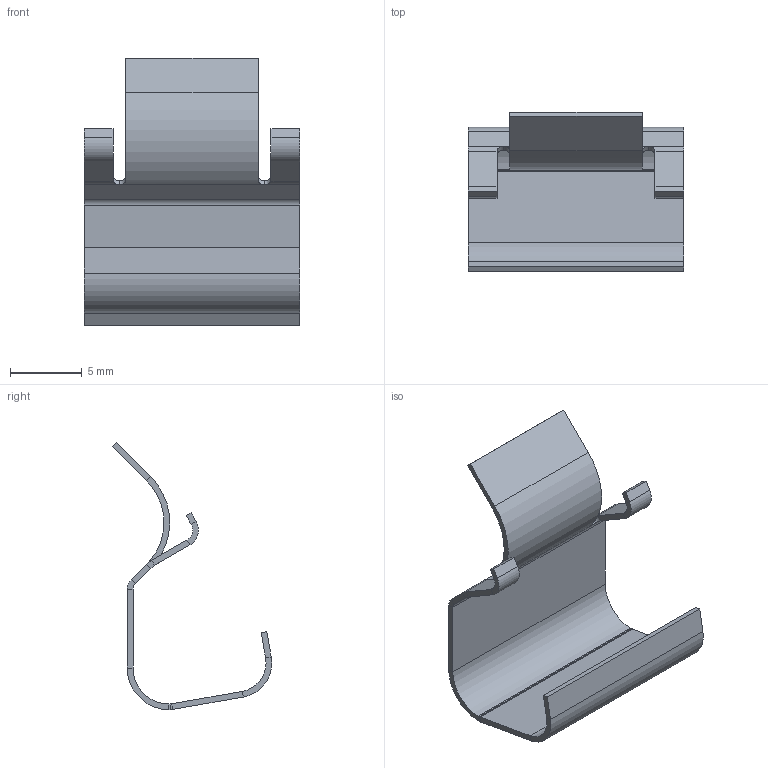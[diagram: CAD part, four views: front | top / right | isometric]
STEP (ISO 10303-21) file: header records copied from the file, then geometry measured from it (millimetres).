
FILE_DESCRIPTION (( 'STEP AP214' ), '1' );
FILE_NAME ('MC726.STEP', '2004-04-06T14:20:30', ( '' ), ( '' ), 'SwSTEP 2.0', 'SolidWorks 2002349', '' );
FILE_SCHEMA (( 'AUTOMOTIVE_DESIGN' ));
Length unit declared in the file: millimetre
Products named in the file (1): MC726
Bounding box: 15 x 11.11 x 18.61 mm (x, y, z)
Volume: 180 mm3; surface area: 946.7 mm2
Topology: 1 solids, 1 shells, 84 faces, 184 edges, 102 vertices
Faces by surface type: plane 62, cylinder 22
Entity records: 2261 total; most frequent: CARTESIAN_POINT 417, DIRECTION 386, ORIENTED_EDGE 368, EDGE_CURVE 184, LINE 132, VECTOR 132, AXIS2_PLACEMENT_3D 127, VERTEX_POINT 102
